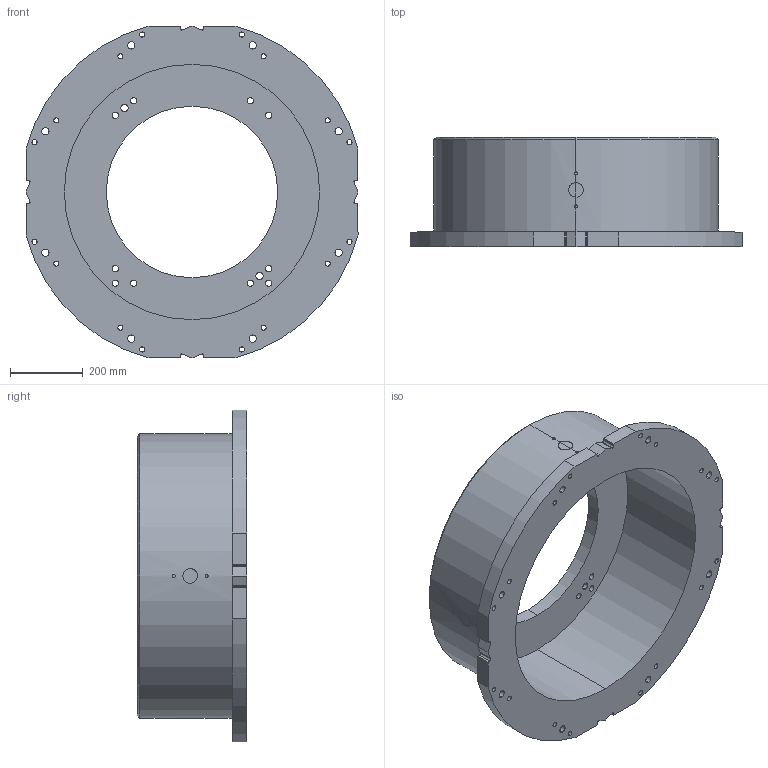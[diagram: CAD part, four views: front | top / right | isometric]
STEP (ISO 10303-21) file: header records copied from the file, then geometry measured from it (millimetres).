
FILE_DESCRIPTION (( 'STEP AP214' ), '1' );
FILE_NAME ('P-300.STEP', '2025-12-09T15:32:01', ( '' ), ( '' ), 'SwSTEP 2.0', 'SolidWorks 2022', '' );
FILE_SCHEMA (( 'AUTOMOTIVE_DESIGN' ));
Length unit declared in the file: millimetre
Products named in the file (1): P-300
Bounding box: 910 x 300 x 910 mm (x, y, z)
Volume: 43542371.8 mm3; surface area: 2457932.8 mm2
Topology: 1 solids, 1 shells, 167 faces, 469 edges, 312 vertices
Faces by surface type: cylinder 129, plane 28, bspline 8, cone 2
Entity records: 8689 total; most frequent: CARTESIAN_POINT 3382, ORIENTED_EDGE 938, DIRECTION 913, EDGE_CURVE 469, AXIS2_PLACEMENT_3D 358, VERTEX_POINT 312, EDGE_LOOP 249, CIRCLE 198
